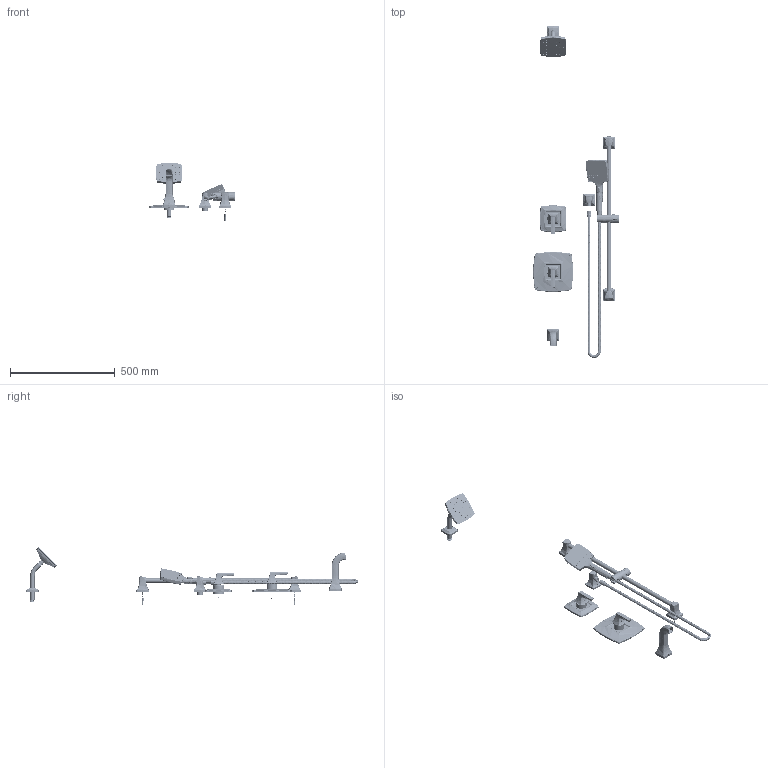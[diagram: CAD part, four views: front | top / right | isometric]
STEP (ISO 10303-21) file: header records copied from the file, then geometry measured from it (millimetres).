
FILE_DESCRIPTION (( 'STEP AP214' ), '1' );
FILE_NAME ('5696TRM.STEP', '2025-01-02T07:19:18', ( '' ), ( '' ), 'SwSTEP 2.0', 'SolidWorks 2023', '' );
FILE_SCHEMA (( 'AUTOMOTIVE_DESIGN' ));
Products named in the file (1): 5696TRM
Bounding box: 407.96 x 1584.14 x 275.54 mm (x, y, z)
Surface area: 641750.2 mm2 (no closed solid volume)
Topology: 0 solids, 338 shells, 1936 faces, 8004 edges, 6218 vertices
Faces by surface type: bspline 785, plane 436, cylinder 410, cone 236, torus 47, sphere 22
Entity records: 386300 total; most frequent: CARTESIAN_POINT 331855, ORIENTED_EDGE 10928, EDGE_CURVE 7991, DIRECTION 7980, VERTEX_POINT 6215, B_SPLINE_CURVE_WITH_KNOTS 3901, AXIS2_PLACEMENT_3D 3027, EDGE_LOOP 2449
